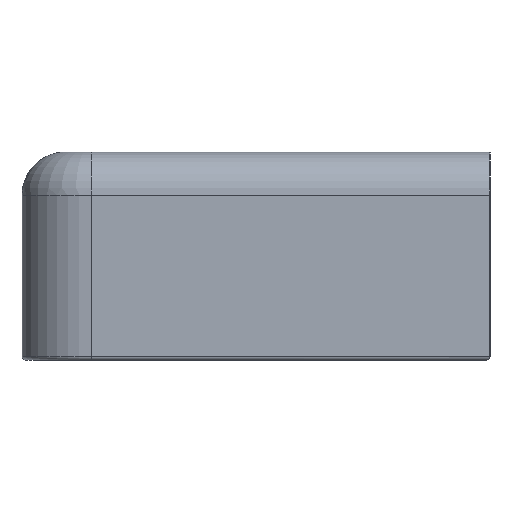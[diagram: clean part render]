
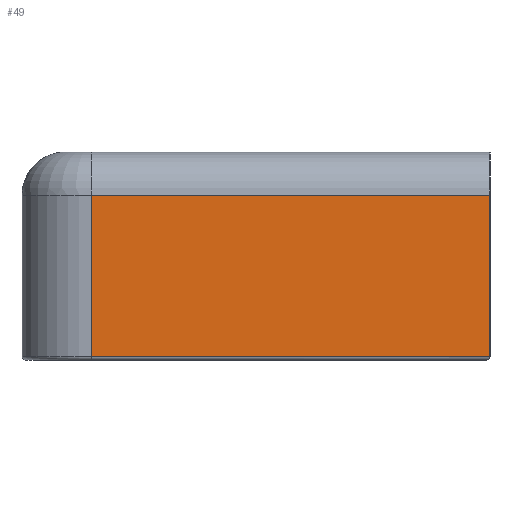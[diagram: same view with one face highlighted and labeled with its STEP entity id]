
A CAD part, left-side view. The second image highlights one B-rep face of the part: STEP entity #49.
In plain terms, the highlighted planar face has unit normal (-1, 0, 0).
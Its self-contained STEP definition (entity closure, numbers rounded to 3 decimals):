
#22 = CARTESIAN_POINT ( 'NONE',  ( -48., 23., 12. ) ) ;
#30 = LINE ( 'NONE', #22, #1506 ) ;
#49 = ADVANCED_FACE ( 'NONE', ( #325 ), #1234, .T. ) ;
#95 = CARTESIAN_POINT ( 'NONE',  ( -48., 23., 9.5 ) ) ;
#129 = VECTOR ( 'NONE', #1349, 1000. ) ;
#241 = ORIENTED_EDGE ( 'NONE', *, *, #1131, .F. ) ;
#312 = VERTEX_POINT ( 'NONE', #1776 ) ;
#325 = FACE_OUTER_BOUND ( 'NONE', #1461, .T. ) ;
#613 = VERTEX_POINT ( 'NONE', #1694 ) ;
#620 = DIRECTION ( 'NONE',  ( 0., 0., -1. ) ) ;
#686 = VERTEX_POINT ( 'NONE', #95 ) ;
#709 = CARTESIAN_POINT ( 'NONE',  ( -48., 0., 0.2 ) ) ;
#755 = DIRECTION ( 'NONE',  ( 0., 0., 1. ) ) ;
#823 = VECTOR ( 'NONE', #1624, 1000. ) ;
#847 = EDGE_CURVE ( 'NONE', #686, #312, #30, .T. ) ;
#860 = DIRECTION ( 'NONE',  ( 0., -1., 0. ) ) ;
#869 = AXIS2_PLACEMENT_3D ( 'NONE', #1964, #1807, #755 ) ;
#883 = LINE ( 'NONE', #709, #894 ) ;
#894 = VECTOR ( 'NONE', #860, 1000. ) ;
#997 = CARTESIAN_POINT ( 'NONE',  ( -48., 0., 9.5 ) ) ;
#1018 = LINE ( 'NONE', #1157, #823 ) ;
#1076 = EDGE_CURVE ( 'NONE', #312, #613, #883, .T. ) ;
#1131 = EDGE_CURVE ( 'NONE', #1543, #613, #1018, .T. ) ;
#1157 = CARTESIAN_POINT ( 'NONE',  ( -48., 0., 12. ) ) ;
#1229 = ORIENTED_EDGE ( 'NONE', *, *, #847, .T. ) ;
#1234 = PLANE ( 'NONE',  #869 ) ;
#1266 = ORIENTED_EDGE ( 'NONE', *, *, #1076, .T. ) ;
#1279 = ORIENTED_EDGE ( 'NONE', *, *, #1709, .F. ) ;
#1349 = DIRECTION ( 'NONE',  ( 0., -1., 0. ) ) ;
#1461 = EDGE_LOOP ( 'NONE', ( #1229, #1266, #241, #1279 ) ) ;
#1506 = VECTOR ( 'NONE', #620, 1000. ) ;
#1543 = VERTEX_POINT ( 'NONE', #997 ) ;
#1547 = LINE ( 'NONE', #1814, #129 ) ;
#1624 = DIRECTION ( 'NONE',  ( 0., 0., -1. ) ) ;
#1694 = CARTESIAN_POINT ( 'NONE',  ( -48., 0., 0.2 ) ) ;
#1709 = EDGE_CURVE ( 'NONE', #686, #1543, #1547, .T. ) ;
#1776 = CARTESIAN_POINT ( 'NONE',  ( -48., 23., 0.2 ) ) ;
#1807 = DIRECTION ( 'NONE',  ( -1., 0., 0. ) ) ;
#1814 = CARTESIAN_POINT ( 'NONE',  ( -48., 11.5, 9.5 ) ) ;
#1964 = CARTESIAN_POINT ( 'NONE',  ( -48., 11.5, 12. ) ) ;
